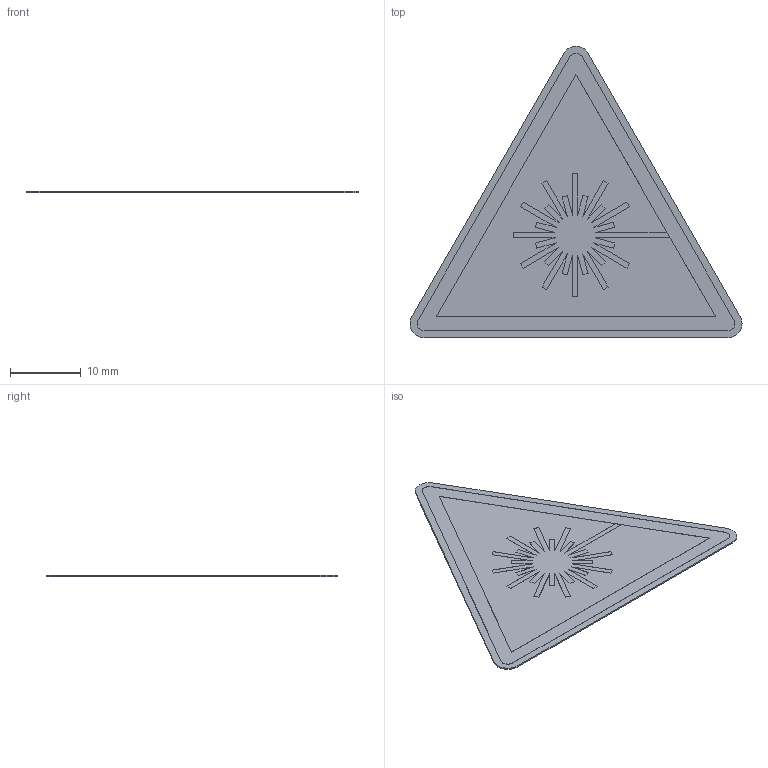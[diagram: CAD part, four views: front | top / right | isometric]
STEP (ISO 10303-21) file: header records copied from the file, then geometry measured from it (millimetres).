
FILE_DESCRIPTION (( 'STEP AP214' ), '1' );
FILE_NAME ('W004_Warnung vor Laserstrahlen.STEP', '2022-02-22T08:09:17', ( '' ), ( '' ), 'SwSTEP 2.0', 'SolidWorks 2021', '' );
FILE_SCHEMA (( 'AUTOMOTIVE_DESIGN' ));
Length unit declared in the file: millimetre
Products named in the file (1): W004_Warnung vor Laserstrahlen
Bounding box: 47.07 x 41.3 x 0.22 mm (x, y, z)
Volume: 221.1 mm3; surface area: 2184.4 mm2
Topology: 1 solids, 1 shells, 93 faces, 267 edges, 178 vertices
Faces by surface type: plane 85, cylinder 8
Entity records: 3944 total; most frequent: CARTESIAN_POINT 539, ORIENTED_EDGE 534, DIRECTION 471, EDGE_CURVE 267, VECTOR 251, LINE 251, VERTEX_POINT 178, AXIS2_PLACEMENT_3D 110
